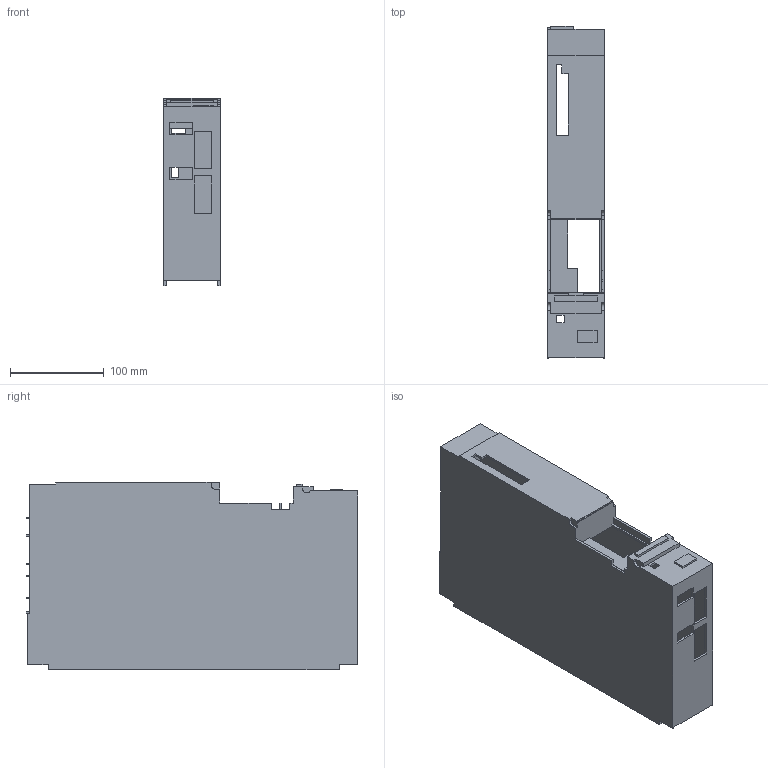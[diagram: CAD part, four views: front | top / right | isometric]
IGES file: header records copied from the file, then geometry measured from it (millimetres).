
Start section:  PTC IGES file: j5d2-w60-case.igs
Global section: file name: j5d2-w60-case.igs; native system: Creo Parametric by PTC Inc.; preprocessor: 2020184; author: VX25986; organization: Unknown; date: 20210323.200200; units: millimetre
Bounding box: 60 x 353.5 x 200.2 mm (x, y, z)
Surface area: 350042.6 mm2 (no closed solid volume)
Topology: 0 solids, 0 shells, 209 faces, 1200 edges, 1200 vertices
Faces by surface type: bspline 209
